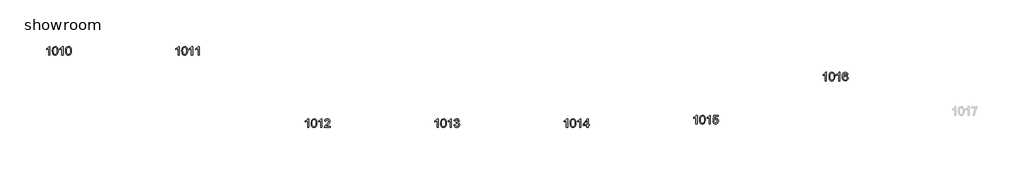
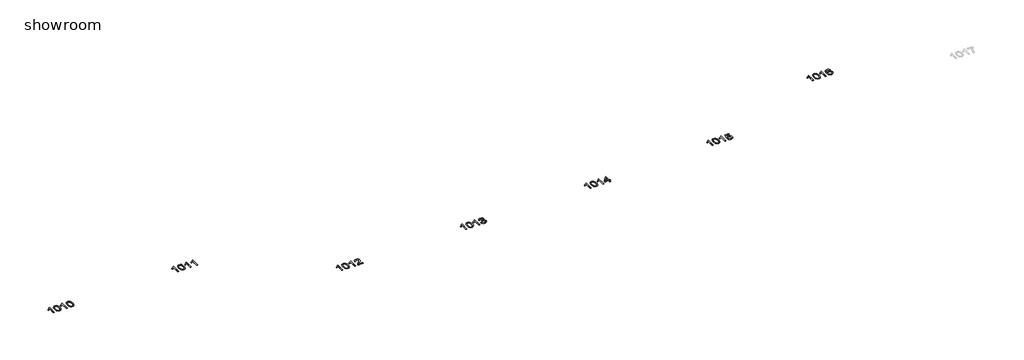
# One storey, part 1 of 3: 7 proxies.
"""IFC4 building model written with IfcOpenShell, lengths in millimetres."""

from ifc_helpers import new_model, si_unit, origin, origin_with_axes, place, context, project, spatial, polyline, outline, extrude, element, save

model = new_model("IFC4")

# Units and contexts
model_context = context("Model", 3, world=origin())
ifc_project = project(units=[si_unit("LENGTHUNIT", "METRE", prefix="MILLI")], contexts=[model_context])

# Site, building, storey
site = spatial("IfcSite", under=ifc_project)
building = spatial("IfcBuilding", under=site)
storey = spatial("IfcBuildingStorey", under=building, Name="showroom", Elevation=0.0)

# Proxies
placement = place(None, origin())
element("IfcBuildingElementProxy", 1, Name="100mm Arial", ObjectType="100mm Arial", at=placement, inside=storey, context=model_context, shape_type="SweptSolid", body=[
    extrude(outline(polyline([(-1708.1109609, 895.1020807), (-1720.6679996, 895.1020807), (-1720.6679996, 973.3873692), (-1732.5628508, 964.9138206), (-1745.7820772, 958.5739876), (-1745.7820772, 970.4443133), (-1727.3757147, 982.1920117), (-1716.2043648, 995.5583908), (-1708.1109609, 995.5583908), (-1708.1109609, 895.1020807)])), origin_with_axes(), (0.0, 0.0, 1.0), 2.0),
    extrude(outline(polyline([(-1678.2879938, 944.5208954), (-1674.5969111, 973.4241574), (-1663.6340277, 990.0892118), (-1645.325767, 995.5583908), (-1630.6595382, 992.3210293), (-1620.5305206, 982.9890893), (-1614.6444086, 968.1266567), (-1612.3635403, 944.5208954), (-1616.0178347, 915.7402606), (-1626.94393, 899.038418), (-1635.1752896, 894.9089426), (-1645.325767, 893.5324508), (-1658.3733151, 895.9236838), (-1668.2816035, 903.0973827), (-1675.7863962, 920.0873995), (-1678.2879938, 944.5208954)]), holes=[polyline([(-1665.730955, 944.5454208), (-1664.259427, 924.7932234), (-1659.8448431, 913.3612904), (-1653.2720181, 907.9074398), (-1645.325767, 906.0894896), (-1637.3795159, 907.9135712), (-1630.806691, 913.3858158), (-1626.392107, 924.8238802), (-1624.920579, 944.5454208), (-1626.3430561, 963.8530942), (-1630.6104872, 975.373932), (-1637.1710495, 981.094497), (-1645.4729198, 983.0013521), (-1653.3333318, 981.3213576), (-1659.6486394, 976.2813743), (-1664.2103761, 964.0431666), (-1665.730955, 944.5454208)])]), origin_with_axes(), (0.0, 0.0, 1.0), 2.0),
    extrude(outline(polyline([(-1554.287236, 895.1020807), (-1566.8442747, 895.1020807), (-1566.8442747, 973.3873692), (-1578.7391259, 964.9138206), (-1591.9583523, 958.5739876), (-1591.9583523, 970.4443133), (-1573.5519898, 982.1920117), (-1562.3806399, 995.5583908), (-1554.287236, 995.5583908), (-1554.287236, 895.1020807)])), origin_with_axes(), (0.0, 0.0, 1.0), 2.0),
    extrude(outline(polyline([(-1524.4642689, 944.5208954), (-1520.7731862, 973.4241574), (-1509.8103027, 990.0892118), (-1491.5020421, 995.5583908), (-1476.8358132, 992.3210293), (-1466.7067956, 982.9890893), (-1460.8206837, 968.1266567), (-1458.5398153, 944.5208954), (-1462.1941098, 915.7402606), (-1473.1202051, 899.038418), (-1481.3515647, 894.9089426), (-1491.5020421, 893.5324508), (-1504.5495902, 895.9236838), (-1514.4578786, 903.0973827), (-1521.9626713, 920.0873995), (-1524.4642689, 944.5208954)]), holes=[polyline([(-1511.9072301, 944.5454208), (-1510.4357021, 924.7932234), (-1506.0211182, 913.3612904), (-1499.4482932, 907.9074398), (-1491.5020421, 906.0894896), (-1483.555791, 907.9135712), (-1476.982966, 913.3858158), (-1472.5683821, 924.8238802), (-1471.0968541, 944.5454208), (-1472.5193312, 963.8530942), (-1476.7867623, 975.373932), (-1483.3473246, 981.094497), (-1491.6491949, 983.0013521), (-1499.5096069, 981.3213576), (-1505.8249145, 976.2813743), (-1510.3866512, 964.0431666), (-1511.9072301, 944.5454208)])]), origin_with_axes(), (0.0, 0.0, 1.0), 2.0),
])
element("IfcBuildingElementProxy", 2, Name="100mm Arial", ObjectType="100mm Arial", at=placement, inside=storey, context=model_context, shape_type="SweptSolid", body=[
    extrude(outline(polyline([(-208.1109609, 895.1020807), (-220.6679996, 895.1020807), (-220.6679996, 973.3873692), (-232.5628508, 964.9138206), (-245.7820772, 958.5739876), (-245.7820772, 970.4443133), (-227.3757147, 982.1920117), (-216.2043648, 995.5583908), (-208.1109609, 995.5583908), (-208.1109609, 895.1020807)])), origin_with_axes(), (0.0, 0.0, 1.0), 2.0),
    extrude(outline(polyline([(-178.2879938, 944.5208954), (-174.5969111, 973.4241574), (-163.6340277, 990.0892118), (-145.325767, 995.5583908), (-130.6595382, 992.3210293), (-120.5305206, 982.9890893), (-114.6444086, 968.1266567), (-112.3635403, 944.5208954), (-116.0178347, 915.7402606), (-126.94393, 899.038418), (-135.1752896, 894.9089426), (-145.325767, 893.5324508), (-158.3733151, 895.9236838), (-168.2816035, 903.0973827), (-175.7863962, 920.0873995), (-178.2879938, 944.5208954)]), holes=[polyline([(-165.730955, 944.5454208), (-164.259427, 924.7932234), (-159.8448431, 913.3612904), (-153.2720181, 907.9074398), (-145.325767, 906.0894896), (-137.3795159, 907.9135712), (-130.806691, 913.3858158), (-126.392107, 924.8238802), (-124.920579, 944.5454208), (-126.3430561, 963.8530942), (-130.6104872, 975.373932), (-137.1710495, 981.094497), (-145.4729198, 983.0013521), (-153.3333318, 981.3213576), (-159.6486394, 976.2813743), (-164.2103761, 964.0431666), (-165.730955, 944.5454208)])]), origin_with_axes(), (0.0, 0.0, 1.0), 2.0),
    extrude(outline(polyline([(-54.287236, 895.1020807), (-66.8442747, 895.1020807), (-66.8442747, 973.3873692), (-78.7391259, 964.9138206), (-91.9583523, 958.5739876), (-91.9583523, 970.4443133), (-73.5519898, 982.1920117), (-62.3806399, 995.5583908), (-54.287236, 995.5583908), (-54.287236, 895.1020807)])), origin_with_axes(), (0.0, 0.0, 1.0), 2.0),
    extrude(outline(polyline([(22.6246265, 895.1020807), (10.0675877, 895.1020807), (10.0675877, 973.3873692), (-1.8272634, 964.9138206), (-15.0464898, 958.5739876), (-15.0464898, 970.4443133), (3.3598727, 982.1920117), (14.5312226, 995.5583908), (22.6246265, 995.5583908), (22.6246265, 895.1020807)])), origin_with_axes(), (0.0, 0.0, 1.0), 2.0),
])
element("IfcBuildingElementProxy", 3, Name="100mm Arial", ObjectType="100mm Arial", at=placement, inside=storey, context=model_context, shape_type="SweptSolid", body=[
    extrude(outline(polyline([(1291.8890391, 55.1020807), (1279.3320004, 55.1020807), (1279.3320004, 133.3873692), (1267.4371492, 124.9138206), (1254.2179228, 118.5739876), (1254.2179228, 130.4443133), (1272.6242853, 142.1920117), (1283.7956352, 155.5583908), (1291.8890391, 155.5583908), (1291.8890391, 55.1020807)])), origin_with_axes(), (0.0, 0.0, 1.0), 2.0),
    extrude(outline(polyline([(1321.7120062, 104.5208954), (1325.4030889, 133.4241574), (1336.3659723, 150.0892118), (1354.674233, 155.5583908), (1369.3404618, 152.3210293), (1379.4694794, 142.9890893), (1385.3555914, 128.1266567), (1387.6364597, 104.5208954), (1383.9821653, 75.7402606), (1373.05607, 59.038418), (1364.8247104, 54.9089426), (1354.674233, 53.5324508), (1341.6266849, 55.9236838), (1331.7183965, 63.0973827), (1324.2136038, 80.0873995), (1321.7120062, 104.5208954)]), holes=[polyline([(1334.269045, 104.5454208), (1335.740573, 84.7932234), (1340.1551569, 73.3612904), (1346.7279819, 67.9074398), (1354.674233, 66.0894896), (1362.6204841, 67.9135712), (1369.193309, 73.3858158), (1373.607893, 84.8238802), (1375.079421, 104.5454208), (1373.6569439, 123.8530942), (1369.3895128, 135.373932), (1362.8289505, 141.094497), (1354.5270802, 143.0013521), (1346.6666682, 141.3213576), (1340.3513606, 136.2813743), (1335.7896239, 124.0431666), (1334.269045, 104.5454208)])]), origin_with_axes(), (0.0, 0.0, 1.0), 2.0),
    extrude(outline(polyline([(1445.712764, 55.1020807), (1433.1557253, 55.1020807), (1433.1557253, 133.3873692), (1421.2608741, 124.9138206), (1408.0416477, 118.5739876), (1408.0416477, 130.4443133), (1426.4480102, 142.1920117), (1437.6193601, 155.5583908), (1445.712764, 155.5583908), (1445.712764, 55.1020807)])), origin_with_axes(), (0.0, 0.0, 1.0), 2.0),
    extrude(outline(polyline([(1539.8905548, 67.6591194), (1539.8905548, 55.1020807), (1473.9661013, 55.1020807), (1475.3150019, 63.7595703), (1482.942422, 77.0891613), (1498.6632459, 91.6450255), (1520.3437581, 112.5652483), (1525.7638862, 126.7900188), (1520.6503265, 138.3047252), (1507.29621, 143.0013521), (1493.3780079, 138.4150898), (1488.0927699, 125.7354237), (1475.5357311, 127.3050536), (1478.5799546, 139.4512908), (1485.1619767, 148.3233782), (1494.9384407, 153.7496377), (1507.5659902, 155.5583908), (1520.2855101, 153.5473026), (1530.0435801, 147.5140379), (1536.2515887, 138.500929), (1538.320925, 127.5503083), (1536.0891075, 115.6431943), (1528.670154, 103.3314102), (1510.6807244, 86.1267956), (1496.2352247, 74.0480034), (1490.569842, 67.6591194), (1539.8905548, 67.6591194)])), origin_with_axes(), (0.0, 0.0, 1.0), 2.0),
])
element("IfcBuildingElementProxy", 4, Name="100mm Arial", ObjectType="100mm Arial", at=placement, inside=storey, context=model_context, shape_type="SweptSolid", body=[
    extrude(outline(polyline([(2791.8890391, 55.1020807), (2779.3320004, 55.1020807), (2779.3320004, 133.3873692), (2767.4371492, 124.9138206), (2754.2179228, 118.5739876), (2754.2179228, 130.4443133), (2772.6242853, 142.1920117), (2783.7956352, 155.5583908), (2791.8890391, 155.5583908), (2791.8890391, 55.1020807)])), origin_with_axes(), (0.0, 0.0, 1.0), 2.0),
    extrude(outline(polyline([(2821.7120062, 104.5208954), (2825.4030889, 133.4241574), (2836.3659723, 150.0892118), (2854.674233, 155.5583908), (2869.3404618, 152.3210293), (2879.4694794, 142.9890893), (2885.3555914, 128.1266567), (2887.6364597, 104.5208954), (2883.9821653, 75.7402606), (2873.05607, 59.038418), (2864.8247104, 54.9089426), (2854.674233, 53.5324508), (2841.6266849, 55.9236838), (2831.7183965, 63.0973827), (2824.2136038, 80.0873995), (2821.7120062, 104.5208954)]), holes=[polyline([(2834.269045, 104.5454208), (2835.740573, 84.7932234), (2840.1551569, 73.3612904), (2846.7279819, 67.9074398), (2854.674233, 66.0894896), (2862.6204841, 67.9135712), (2869.193309, 73.3858158), (2873.607893, 84.8238802), (2875.079421, 104.5454208), (2873.6569439, 123.8530942), (2869.3895128, 135.373932), (2862.8289505, 141.094497), (2854.5270802, 143.0013521), (2846.6666682, 141.3213576), (2840.3513606, 136.2813743), (2835.7896239, 124.0431666), (2834.269045, 104.5454208)])]), origin_with_axes(), (0.0, 0.0, 1.0), 2.0),
    extrude(outline(polyline([(2945.712764, 55.1020807), (2933.1557253, 55.1020807), (2933.1557253, 133.3873692), (2921.2608741, 124.9138206), (2908.0416477, 118.5739876), (2908.0416477, 130.4443133), (2926.4480102, 142.1920117), (2937.6193601, 155.5583908), (2945.712764, 155.5583908), (2945.712764, 55.1020807)])), origin_with_axes(), (0.0, 0.0, 1.0), 2.0),
    extrude(outline(polyline([(2975.5357311, 81.7857881), (2988.0927699, 83.3554179), (2995.0212141, 70.1361915), (3007.9829231, 66.0894896), (3016.5913618, 67.4813098), (3023.2377632, 71.6567705), (3028.9031459, 85.4400825), (3023.2868141, 98.426317), (3009.0129927, 103.5644022), (3000.2083503, 102.1909761), (3001.6063018, 114.7480148), (3003.6173901, 114.600862), (3017.866686, 118.2061056), (3022.6123638, 122.7801051), (3024.1942563, 129.2916164), (3019.6079941, 139.1140656), (3007.7867194, 143.0013521), (2995.8182918, 139.0772774), (2989.6623997, 127.3050536), (2977.105361, 128.8746834), (2980.802575, 140.1502666), (2987.3815314, 148.5686329), (2996.3823775, 153.8109513), (3007.345261, 155.5583908), (3022.4897364, 152.1125628), (3033.0847379, 142.6947837), (3036.7512951, 130.0273804), (3033.2686789, 118.4513602), (3022.967983, 110.1372272), (3036.6531933, 101.5533139), (3041.4601847, 85.2193533), (3039.056689, 72.9811456), (3031.8462018, 62.7540262), (3020.9630262, 55.8378447), (3007.5414647, 53.5324508), (2995.4013589, 55.5006195), (2985.5175959, 61.4051255), (2978.644334, 70.4366285), (2975.5357311, 81.7857881)])), origin_with_axes(), (0.0, 0.0, 1.0), 2.0),
])
element("IfcBuildingElementProxy", 5, Name="100mm Arial", ObjectType="100mm Arial", at=placement, inside=storey, context=model_context, shape_type="SweptSolid", body=[
    extrude(outline(polyline([(4291.8890391, 55.1020807), (4279.3320004, 55.1020807), (4279.3320004, 133.3873692), (4267.4371492, 124.9138206), (4254.2179228, 118.5739876), (4254.2179228, 130.4443133), (4272.6242853, 142.1920117), (4283.7956352, 155.5583908), (4291.8890391, 155.5583908), (4291.8890391, 55.1020807)])), origin_with_axes(), (0.0, 0.0, 1.0), 2.0),
    extrude(outline(polyline([(4321.7120062, 104.5208954), (4325.4030889, 133.4241574), (4336.3659723, 150.0892118), (4354.674233, 155.5583908), (4369.3404618, 152.3210293), (4379.4694794, 142.9890893), (4385.3555914, 128.1266567), (4387.6364597, 104.5208954), (4383.9821653, 75.7402606), (4373.05607, 59.038418), (4364.8247104, 54.9089426), (4354.674233, 53.5324508), (4341.6266849, 55.9236838), (4331.7183965, 63.0973827), (4324.2136038, 80.0873995), (4321.7120062, 104.5208954)]), holes=[polyline([(4334.269045, 104.5454208), (4335.740573, 84.7932234), (4340.1551569, 73.3612904), (4346.7279819, 67.9074398), (4354.674233, 66.0894896), (4362.6204841, 67.9135712), (4369.193309, 73.3858158), (4373.607893, 84.8238802), (4375.079421, 104.5454208), (4373.6569439, 123.8530942), (4369.3895128, 135.373932), (4362.8289505, 141.094497), (4354.5270802, 143.0013521), (4346.6666682, 141.3213576), (4340.3513606, 136.2813743), (4335.7896239, 124.0431666), (4334.269045, 104.5454208)])]), origin_with_axes(), (0.0, 0.0, 1.0), 2.0),
    extrude(outline(polyline([(4445.712764, 55.1020807), (4433.1557253, 55.1020807), (4433.1557253, 133.3873692), (4421.2608741, 124.9138206), (4408.0416477, 118.5739876), (4408.0416477, 130.4443133), (4426.4480102, 142.1920117), (4437.6193601, 155.5583908), (4445.712764, 155.5583908), (4445.712764, 55.1020807)])), origin_with_axes(), (0.0, 0.0, 1.0), 2.0),
    extrude(outline(polyline([(4516.3461071, 55.1020807), (4516.3461071, 78.6465284), (4470.8268416, 78.6465284), (4470.8268416, 91.2035671), (4519.4853668, 153.988761), (4528.9031459, 153.988761), (4528.9031459, 91.2035671), (4541.4601847, 91.2035671), (4541.4601847, 78.6465284), (4528.9031459, 78.6465284), (4528.9031459, 55.1020807), (4516.3461071, 55.1020807)]), holes=[polyline([(4516.3461071, 91.2035671), (4516.3461071, 130.0028549), (4486.2778854, 91.2035671), (4516.3461071, 91.2035671)])]), origin_with_axes(), (0.0, 0.0, 1.0), 2.0),
])
element("IfcBuildingElementProxy", 6, Name="100mm Arial", ObjectType="100mm Arial", at=placement, inside=storey, context=model_context, shape_type="SweptSolid", body=[
    extrude(outline(polyline([(7291.8890391, 595.1020807), (7279.3320004, 595.1020807), (7279.3320004, 673.3873692), (7267.4371492, 664.9138206), (7254.2179228, 658.5739876), (7254.2179228, 670.4443133), (7272.6242853, 682.1920117), (7283.7956352, 695.5583908), (7291.8890391, 695.5583908), (7291.8890391, 595.1020807)])), origin_with_axes(), (0.0, 0.0, 1.0), 2.0),
    extrude(outline(polyline([(7321.7120062, 644.5208954), (7325.4030889, 673.4241574), (7336.3659723, 690.0892118), (7354.674233, 695.5583908), (7369.3404618, 692.3210293), (7379.4694794, 682.9890893), (7385.3555914, 668.1266567), (7387.6364597, 644.5208954), (7383.9821653, 615.7402606), (7373.05607, 599.038418), (7364.8247104, 594.9089426), (7354.674233, 593.5324508), (7341.6266849, 595.9236838), (7331.7183965, 603.0973827), (7324.2136038, 620.0873995), (7321.7120062, 644.5208954)]), holes=[polyline([(7334.269045, 644.5454208), (7335.740573, 624.7932234), (7340.1551569, 613.3612904), (7346.7279819, 607.9074398), (7354.674233, 606.0894896), (7362.6204841, 607.9135712), (7369.193309, 613.3858158), (7373.607893, 624.8238802), (7375.079421, 644.5454208), (7373.6569439, 663.8530942), (7369.3895128, 675.373932), (7362.8289505, 681.094497), (7354.5270802, 683.0013521), (7346.6666682, 681.3213576), (7340.3513606, 676.2813743), (7335.7896239, 664.0431666), (7334.269045, 644.5454208)])]), origin_with_axes(), (0.0, 0.0, 1.0), 2.0),
    extrude(outline(polyline([(7445.712764, 595.1020807), (7433.1557253, 595.1020807), (7433.1557253, 673.3873692), (7421.2608741, 664.9138206), (7408.0416477, 658.5739876), (7408.0416477, 670.4443133), (7426.4480102, 682.1920117), (7437.6193601, 695.5583908), (7445.712764, 695.5583908), (7445.712764, 595.1020807)])), origin_with_axes(), (0.0, 0.0, 1.0), 2.0),
    extrude(outline(polyline([(7539.8905548, 668.8746834), (7527.333516, 667.3050536), (7522.5755756, 677.7774277), (7509.9940113, 683.0013521), (7498.6632459, 679.9601942), (7490.0915954, 668.5435896), (7486.52314, 646.1641016), (7497.5963881, 656.1827546), (7511.3183865, 659.4569044), (7522.9189321, 657.2189556), (7532.6555422, 650.5051091), (7539.259024, 640.2473328), (7541.4601847, 627.3775944), (7537.3153808, 610.0503524), (7525.911039, 597.7876192), (7509.4544511, 593.5324508), (7495.2082208, 596.3528795), (7483.8621269, 604.8141653), (7476.4401077, 619.7501743), (7473.9661013, 641.9947723), (7476.7129535, 667.0046166), (7484.9535102, 684.104998), (7496.2045679, 692.6950426), (7510.7788263, 695.5583908), (7521.796892, 693.7864259), (7530.6199285, 688.470531), (7536.800346, 680.0276393), (7539.8905548, 668.8746834)]), holes=[polyline([(7486.52314, 627.5737981), (7489.4294078, 616.6967538), (7497.1549297, 608.7995536), (7508.4734324, 606.0894896), (7516.7599744, 607.4935725), (7523.2745514, 611.7058214), (7527.4959973, 618.3276973), (7528.9031459, 626.9606615), (7527.5143914, 635.2472034), (7523.3481278, 641.5655767), (7516.7231862, 645.5662934), (7507.9583976, 646.8998656), (7492.7648712, 641.5655767), (7488.0835728, 635.4004876), (7486.52314, 627.5737981)])]), origin_with_axes(), (0.0, 0.0, 1.0), 2.0),
])
element("IfcBuildingElementProxy", 7, Name="100mm Arial", ObjectType="100mm Arial", at=placement, inside=storey, context=model_context, shape_type="SweptSolid", body=[
    extrude(outline(polyline([(5791.8890391, 95.1020807), (5779.3320004, 95.1020807), (5779.3320004, 173.3873692), (5767.4371492, 164.9138206), (5754.2179228, 158.5739876), (5754.2179228, 170.4443133), (5772.6242853, 182.1920117), (5783.7956352, 195.5583908), (5791.8890391, 195.5583908), (5791.8890391, 95.1020807)])), origin_with_axes(), (0.0, 0.0, 1.0), 2.0),
    extrude(outline(polyline([(5821.7120062, 144.5208954), (5825.4030889, 173.4241574), (5836.3659723, 190.0892118), (5854.674233, 195.5583908), (5869.3404618, 192.3210293), (5879.4694794, 182.9890893), (5885.3555914, 168.1266567), (5887.6364597, 144.5208954), (5883.9821653, 115.7402606), (5873.05607, 99.038418), (5864.8247104, 94.9089426), (5854.674233, 93.5324508), (5841.6266849, 95.9236838), (5831.7183965, 103.0973827), (5824.2136038, 120.0873995), (5821.7120062, 144.5208954)]), holes=[polyline([(5834.269045, 144.5454208), (5835.740573, 124.7932234), (5840.1551569, 113.3612904), (5846.7279819, 107.9074398), (5854.674233, 106.0894896), (5862.6204841, 107.9135712), (5869.193309, 113.3858158), (5873.607893, 124.8238802), (5875.079421, 144.5454208), (5873.6569439, 163.8530942), (5869.3895128, 175.373932), (5862.8289505, 181.094497), (5854.5270802, 183.0013521), (5846.6666682, 181.3213576), (5840.3513606, 176.2813743), (5835.7896239, 164.0431666), (5834.269045, 144.5454208)])]), origin_with_axes(), (0.0, 0.0, 1.0), 2.0),
    extrude(outline(polyline([(5945.712764, 95.1020807), (5933.1557253, 95.1020807), (5933.1557253, 173.3873692), (5921.2608741, 164.9138206), (5908.0416477, 158.5739876), (5908.0416477, 170.4443133), (5926.4480102, 182.1920117), (5937.6193601, 195.5583908), (5945.712764, 195.5583908), (5945.712764, 95.1020807)])), origin_with_axes(), (0.0, 0.0, 1.0), 2.0),
    extrude(outline(polyline([(5975.5357311, 121.7857881), (5988.0927699, 123.3554179), (5994.4203402, 110.4182344), (6007.5414647, 106.0894896), (6016.5423108, 107.5947401), (6023.2868141, 112.1104916), (6027.4990629, 119.1155779), (6028.9031459, 128.0888329), (6023.6424334, 143.0003164), (6017.0358859, 147.1022007), (6007.7376684, 148.4694954), (5996.7134713, 146.2867289), (5989.6623997, 140.6213462), (5977.105361, 142.1909761), (5988.0927699, 193.988761), (6036.7512951, 193.988761), (6036.7512951, 181.4317222), (5998.246313, 181.4317222), (5992.8752358, 153.7669962), (6001.8454251, 159.2116497), (6011.2448101, 161.0265342), (6022.9771801, 158.7763227), (6032.7168559, 152.0256881), (6039.2743525, 141.7372549), (6041.4601847, 128.8736478), (6039.492016, 116.3166091), (6033.58751, 105.5744548), (6022.28127, 96.5429518), (6007.4924138, 93.5324508), (5995.1591699, 95.466897), (5985.3336549, 101.2702355), (5978.5983487, 110.2680159), (5975.5357311, 121.7857881)])), origin_with_axes(), (0.0, 0.0, 1.0), 2.0),
])

save(model, "model.ifc")
